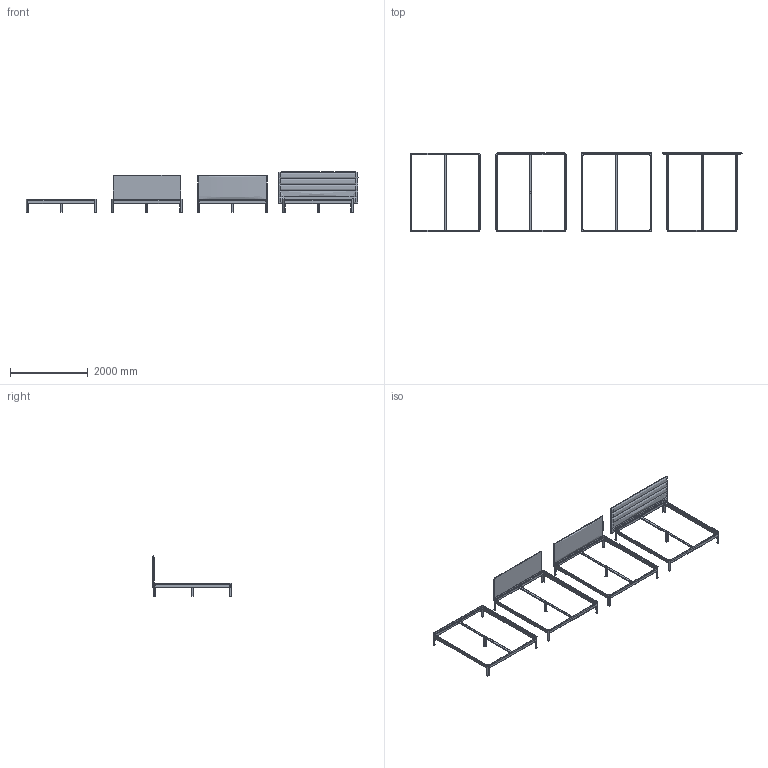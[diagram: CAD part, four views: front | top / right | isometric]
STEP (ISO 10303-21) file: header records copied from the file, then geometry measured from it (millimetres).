
FILE_DESCRIPTION(/* description */ (''),/* implementation_level */ '2;1');
FILE_NAME(/* name */ 'Heia_180x200',/* time_stamp */ '2025-10-15T11:16:14+02:00',/* author */ (''),/* organization */ (''),/* preprocessor_version */ 'ST-DEVELOPER v16.5',/* originating_system */ 'Rhino 7.38',/* authorisation */ '');
FILE_SCHEMA (('CONFIG_CONTROL_DESIGN'));
Length unit declared in the file: millimetre
Products named in the file (1): Document
Bounding box: 8531.47 x 2033.48 x 1051.22 mm (x, y, z)
Volume: 170982187.7 mm3; surface area: 21352300.5 mm2
Topology: 62 solids, 63 shells, 1706 faces, 4160 edges, 2566 vertices
Faces by surface type: plane 712, cylinder 670, bspline 324
Entity records: 58219 total; most frequent: CARTESIAN_POINT 31763, ORIENTED_EDGE 8294, EDGE_CURVE 4152, VERTEX_POINT 2566, B_SPLINE_CURVE_WITH_KNOTS 1827, EDGE_LOOP 1746, ADVANCED_FACE 1706, FACE_OUTER_BOUND 1706
